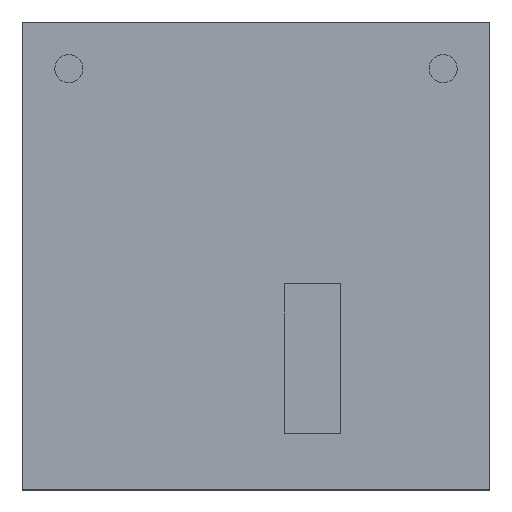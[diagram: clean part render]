
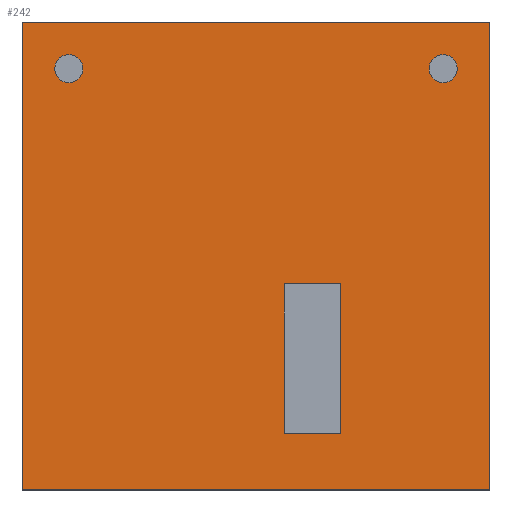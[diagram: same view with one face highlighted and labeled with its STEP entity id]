
A CAD part, top view. The second image highlights one B-rep face of the part: STEP entity #242.
In plain terms, the highlighted planar face has unit normal (0, 0, 1).
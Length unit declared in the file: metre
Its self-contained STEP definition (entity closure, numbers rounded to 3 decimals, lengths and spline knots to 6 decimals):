
#15=LINE('',#369,#39);
#16=LINE('',#372,#40);
#17=LINE('',#374,#41);
#18=LINE('',#376,#42);
#19=LINE('',#377,#43);
#20=LINE('',#380,#44);
#21=LINE('',#382,#45);
#22=LINE('',#384,#46);
#39=VECTOR('',#301,1.);
#40=VECTOR('',#302,1.);
#41=VECTOR('',#303,1.);
#42=VECTOR('',#304,1.);
#43=VECTOR('',#305,1.);
#44=VECTOR('',#306,1.);
#45=VECTOR('',#307,1.);
#46=VECTOR('',#308,1.);
#63=ORIENTED_EDGE('',*,*,#123,.F.);
#64=ORIENTED_EDGE('',*,*,#124,.F.);
#65=ORIENTED_EDGE('',*,*,#125,.F.);
#66=ORIENTED_EDGE('',*,*,#126,.T.);
#67=ORIENTED_EDGE('',*,*,#127,.T.);
#68=ORIENTED_EDGE('',*,*,#128,.F.);
#69=ORIENTED_EDGE('',*,*,#129,.F.);
#70=ORIENTED_EDGE('',*,*,#130,.T.);
#71=ORIENTED_EDGE('',*,*,#131,.T.);
#72=ORIENTED_EDGE('',*,*,#132,.F.);
#123=EDGE_CURVE('',#153,#153,#175,.T.);
#124=EDGE_CURVE('',#154,#154,#176,.T.);
#125=EDGE_CURVE('',#155,#156,#15,.T.);
#126=EDGE_CURVE('',#155,#157,#16,.T.);
#127=EDGE_CURVE('',#157,#158,#17,.T.);
#128=EDGE_CURVE('',#156,#158,#18,.T.);
#129=EDGE_CURVE('',#159,#160,#19,.T.);
#130=EDGE_CURVE('',#159,#161,#20,.T.);
#131=EDGE_CURVE('',#161,#162,#21,.T.);
#132=EDGE_CURVE('',#160,#162,#22,.T.);
#153=VERTEX_POINT('',#366);
#154=VERTEX_POINT('',#368);
#155=VERTEX_POINT('',#370);
#156=VERTEX_POINT('',#371);
#157=VERTEX_POINT('',#373);
#158=VERTEX_POINT('',#375);
#159=VERTEX_POINT('',#378);
#160=VERTEX_POINT('',#379);
#161=VERTEX_POINT('',#381);
#162=VERTEX_POINT('',#383);
#175=CIRCLE('',#272,0.0015);
#176=CIRCLE('',#273,0.0015);
#181=EDGE_LOOP('',(#63));
#182=EDGE_LOOP('',(#64));
#183=EDGE_LOOP('',(#65,#66,#67,#68));
#184=EDGE_LOOP('',(#69,#70,#71,#72));
#205=FACE_BOUND('',#181,.T.);
#206=FACE_BOUND('',#182,.T.);
#207=FACE_BOUND('',#183,.T.);
#208=FACE_BOUND('',#184,.T.);
#229=PLANE('',#271);
#242=ADVANCED_FACE('',(#205,#206,#207,#208),#229,.T.);
#271=AXIS2_PLACEMENT_3D('',#364,#295,#296);
#272=AXIS2_PLACEMENT_3D('',#365,#297,#298);
#273=AXIS2_PLACEMENT_3D('',#367,#299,#300);
#295=DIRECTION('',(0.,0.,1.));
#296=DIRECTION('',(1.,0.,0.));
#297=DIRECTION('',(0.,0.,1.));
#298=DIRECTION('',(1.,0.,0.));
#299=DIRECTION('',(0.,0.,1.));
#300=DIRECTION('',(1.,0.,0.));
#301=DIRECTION('',(1.,0.,0.));
#302=DIRECTION('',(0.,-1.,0.));
#303=DIRECTION('',(1.,0.,0.));
#304=DIRECTION('',(0.,-1.,0.));
#305=DIRECTION('',(0.,-1.,0.));
#306=DIRECTION('',(1.,0.,0.));
#307=DIRECTION('',(0.,-1.,0.));
#308=DIRECTION('',(1.,0.,0.));
#364=CARTESIAN_POINT('',(-0.278989,-0.095026,0.006));
#365=CARTESIAN_POINT('',(-0.298989,-0.075026,0.006));
#366=CARTESIAN_POINT('',(-0.297489,-0.075026,0.006));
#367=CARTESIAN_POINT('',(-0.258989,-0.075026,0.006));
#368=CARTESIAN_POINT('',(-0.257489,-0.075026,0.006));
#369=CARTESIAN_POINT('',(-0.278989,-0.070026,0.006));
#370=CARTESIAN_POINT('',(-0.303989,-0.070026,0.006));
#371=CARTESIAN_POINT('',(-0.253989,-0.070026,0.006));
#372=CARTESIAN_POINT('',(-0.303989,-0.095026,0.006));
#373=CARTESIAN_POINT('',(-0.303989,-0.120026,0.006));
#374=CARTESIAN_POINT('',(-0.278989,-0.120026,0.006));
#375=CARTESIAN_POINT('',(-0.253989,-0.120026,0.006));
#376=CARTESIAN_POINT('',(-0.253989,-0.095026,0.006));
#377=CARTESIAN_POINT('',(-0.275989,-0.106026,0.006));
#378=CARTESIAN_POINT('',(-0.275989,-0.098026,0.006));
#379=CARTESIAN_POINT('',(-0.275989,-0.114026,0.006));
#380=CARTESIAN_POINT('',(-0.272989,-0.098026,0.006));
#381=CARTESIAN_POINT('',(-0.269989,-0.098026,0.006));
#382=CARTESIAN_POINT('',(-0.269989,-0.106026,0.006));
#383=CARTESIAN_POINT('',(-0.269989,-0.114026,0.006));
#384=CARTESIAN_POINT('',(-0.272989,-0.114026,0.006));
